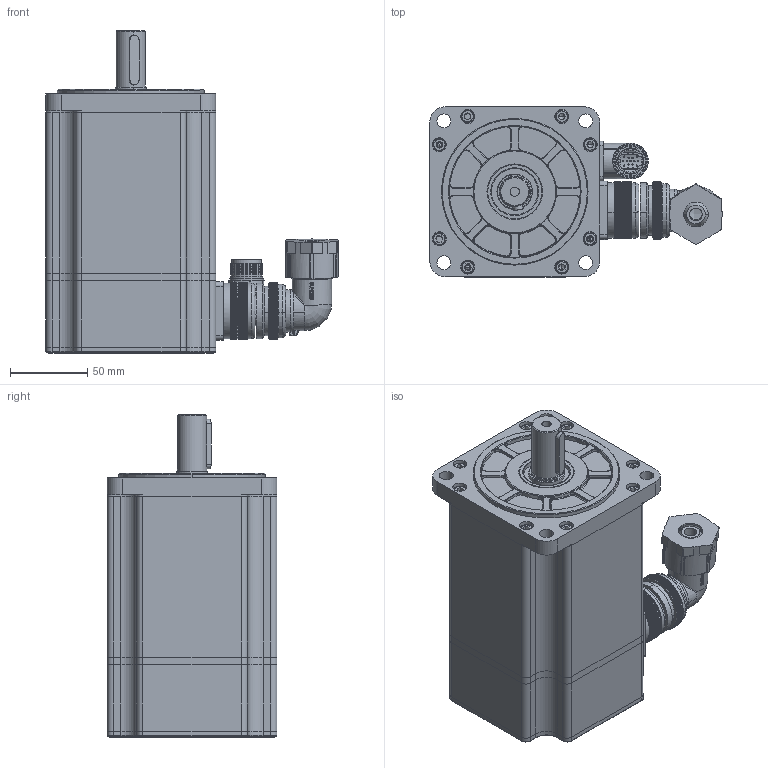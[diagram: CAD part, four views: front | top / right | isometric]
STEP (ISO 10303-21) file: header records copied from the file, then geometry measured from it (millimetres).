
FILE_DESCRIPTION (( 'STEP AP203' ), '1' );
FILE_NAME ('9.6957.STEP', '2018-07-31T05:42:03', ( '' ), ( '' ), 'SwSTEP 2.0', 'SolidWorks 2008', '' );
FILE_SCHEMA (( 'CONFIG_CONTROL_DESIGN' ));
Products named in the file (1): 9.6957
Bounding box: 189.35 x 110 x 209 mm (x, y, z)
Surface area: 141184 mm2 (no closed solid volume)
Topology: 0 solids, 59 shells, 2358 faces, 7860 edges, 5298 vertices
Faces by surface type: cylinder 1067, plane 978, cone 191, bspline 122
Entity records: 100737 total; most frequent: CARTESIAN_POINT 39776, ORIENTED_EDGE 13198, DIRECTION 10801, EDGE_CURVE 7812, VERTEX_POINT 5298, AXIS2_PLACEMENT_3D 4072, B_SPLINE_CURVE_WITH_KNOTS 2839, VECTOR 2657
